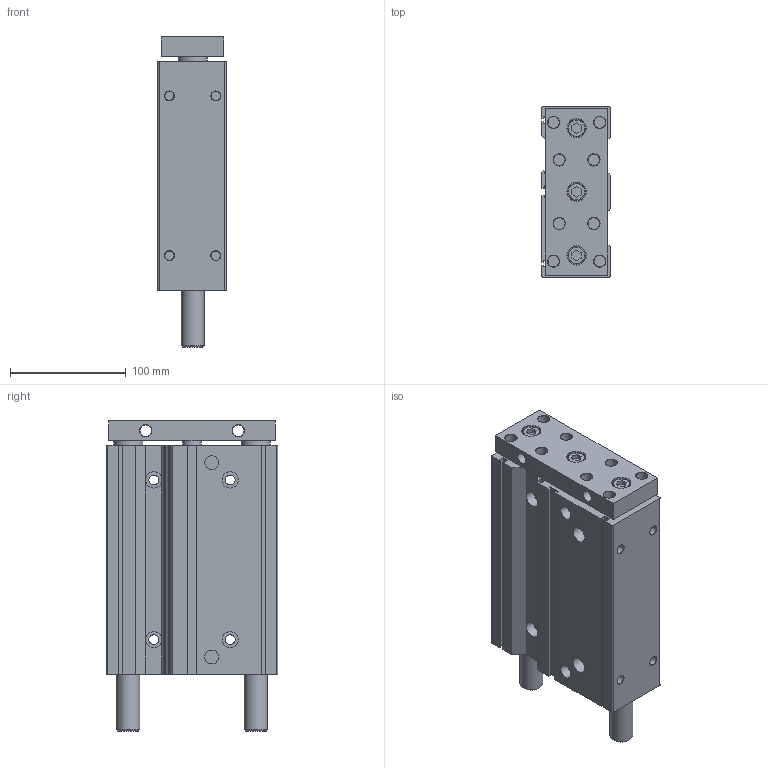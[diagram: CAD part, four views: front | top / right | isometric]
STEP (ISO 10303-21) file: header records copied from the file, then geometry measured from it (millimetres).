
FILE_DESCRIPTION((''),'2;1');
FILE_NAME('I:\3D電子目錄\氣缸\TB(U)\TB(U)50\TB50(U)\TB(U)50x150.stp','2007-08-06T09:22:10',('Administrator'),(''),'Autodesk Inventor 2008','Autodesk Inventor 2008','');
FILE_SCHEMA(('AUTOMOTIVE_DESIGN { 1 0 10303 214 1 1 1 1 }'));
Length unit declared in the file: millimetre
Products named in the file (1): TB(U)50X150
Bounding box: 59 x 148 x 268 mm (x, y, z)
Volume: 1691494.9 mm3; surface area: 161747.6 mm2
Topology: 1 solids, 1 shells, 206 faces, 460 edges, 292 vertices
Faces by surface type: plane 106, cylinder 52, cone 37, bspline 8, torus 3
Full cylindrical faces by diameter (mm): 8 x4, 8.5 x4, 10 x18, 12 x2, 14 x4, 15 x3, 16 x4, 20 x2, 25 x2, 32 x2, 52 x1
Entity records: 5360 total; most frequent: CARTESIAN_POINT 945, DIRECTION 920, ORIENTED_EDGE 736, EDGE_CURVE 368, EDGE_LOOP 364, AXIS2_PLACEMENT_3D 353, VERTEX_POINT 290, VECTOR 214
